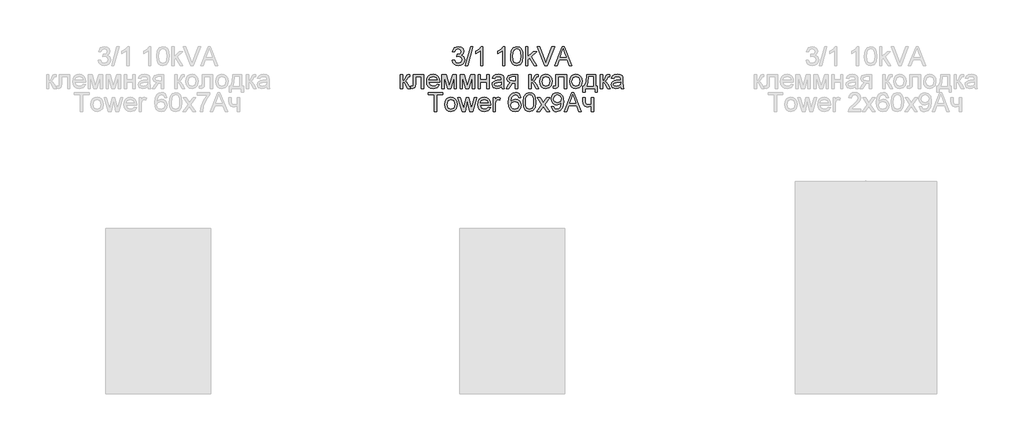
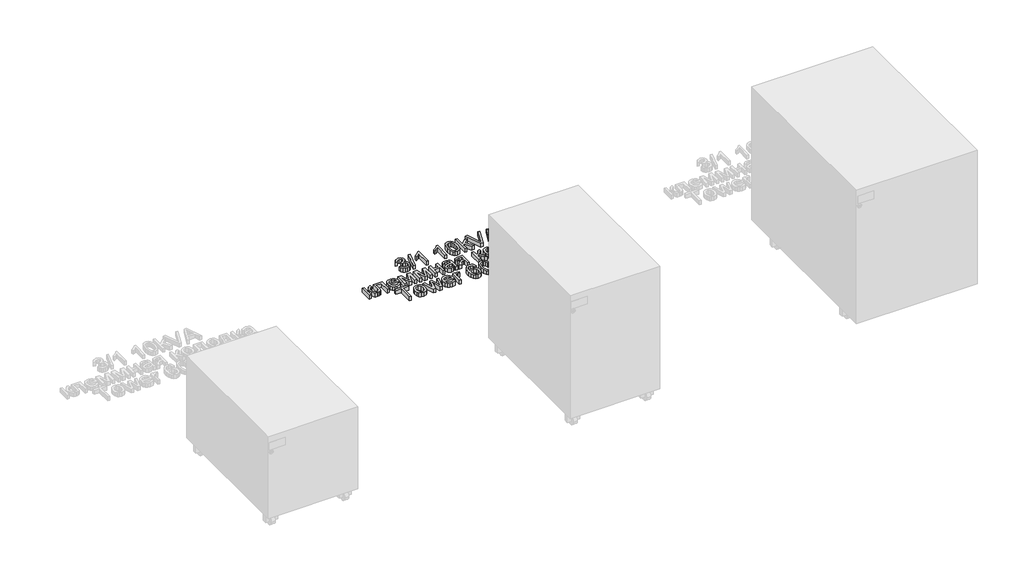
# One storey, part 35 of 74: 1 proxy.
"""IFC4 building model written with IfcOpenShell, lengths in millimetres."""

import ifcopenshell
import ifcopenshell.guid

model = None  # the IFC model being written
_history = None  # IfcOwnerHistory: only IFC2X3 demands one
_inside = {}  # id of a spatial element -> (the spatial element, [elements in it])
_under = {}  # id of a project, library or spatial element -> (it, [spatial elements below it])
_declared = {}  # id of a project -> (the project, [libraries it declares])
_typed = {}  # id of a type object -> (the type object, [elements of that type])
_made_of = {}  # id of a material, layer set ... -> (it, [elements and type objects made of it])


def new_model(schema):
    """Start an empty IFC model of exactly this schema.

    Asked for "IFC4X3", IfcOpenShell would pick the latest addendum, in which some entities
    have other attributes; the version numbers below select the first issue.
    IFC2X3 requires an IfcOwnerHistory on every rooted entity: one is made here for all.
    """
    global model, _history
    if schema == "IFC4X3":
        model = ifcopenshell.file(schema_version=(4, 3, 0, 0))
    else:
        model = ifcopenshell.file(schema=schema)
    _inside.clear()
    _under.clear()
    _declared.clear()
    _typed.clear()
    _made_of.clear()
    _history = None
    if model.schema == "IFC2X3":
        org = make("IfcOrganization", Name="unknown")
        user = make(
            "IfcPersonAndOrganization",
            ThePerson=make("IfcPerson", FamilyName="unknown"),
            TheOrganization=org,
        )
        app = make(
            "IfcApplication",
            ApplicationDeveloper=org,
            Version="unknown",
            ApplicationFullName="unknown",
            ApplicationIdentifier="unknown",
        )
        _history = make(
            "IfcOwnerHistory",
            OwningUser=user,
            OwningApplication=app,
            ChangeAction="ADDED",
            CreationDate=0,
        )
    return model


def make(cls, **values):
    """One entity of the class cls with the attributes given. An attribute that is None is left unset."""
    return model.create_entity(
        cls, **{name: value for name, value in values.items() if value is not None}
    )


def rooted(cls, **values):
    """An entity with a GlobalId (a new one), such as an element, a storey or a relation."""
    return make(cls, GlobalId=ifcopenshell.guid.new(), OwnerHistory=_history, **values)


def si_unit(unit_type, name, prefix=None):
    """IfcSIUnit, for example si_unit("LENGTHUNIT", "METRE", prefix="MILLI")."""
    return make("IfcSIUnit", UnitType=unit_type, Prefix=prefix, Name=name)


def assignment(units):
    """IfcUnitAssignment: the units of a project."""
    return None if units is None else make("IfcUnitAssignment", Units=units)


def point(xyz):
    """IfcCartesianPoint."""
    return None if xyz is None else make("IfcCartesianPoint", Coordinates=xyz)


def direction(xyz):
    """IfcDirection."""
    return None if xyz is None else make("IfcDirection", DirectionRatios=xyz)


def frame(location, z_axis=None, x_axis=None):
    """IfcAxis2Placement3D, a coordinate frame: its origin and axes. An axis left out is left unset."""
    return make(
        "IfcAxis2Placement3D",
        Location=point(location),
        Axis=direction(z_axis),
        RefDirection=direction(x_axis),
    )


def origin():
    """The frame at (0, 0, 0) with its axes left unset."""
    return frame((0.0, 0.0, 0.0))


def origin_with_axes():
    """The frame at (0, 0, 0) with the z axis (0, 0, 1) and the x axis (1, 0, 0) written out."""
    return frame((0.0, 0.0, 0.0), z_axis=(0.0, 0.0, 1.0), x_axis=(1.0, 0.0, 0.0))


def place(relative_to, where):
    """IfcLocalPlacement: puts the frame where relative to a parent placement (None: the world)."""
    return make(
        "IfcLocalPlacement", PlacementRelTo=relative_to, RelativePlacement=where
    )


def context(
    kind, dimensions, precision=None, world=None, true_north=None, identifier=None
):
    """IfcGeometricRepresentationContext, for example the 3D "Model" context."""
    return make(
        "IfcGeometricRepresentationContext",
        ContextIdentifier=identifier,
        ContextType=kind,
        CoordinateSpaceDimension=dimensions,
        Precision=precision,
        WorldCoordinateSystem=world,
        TrueNorth=true_north,
    )


def project(units=None, contexts=None):
    """IfcProject with its units and contexts."""
    return rooted(
        "IfcProject",
        Name="project",
        RepresentationContexts=contexts,
        UnitsInContext=assignment(units),
    )


def spatial(cls, under=None, at=None, **own):
    """A site, building, storey or space (cls), placed at a placement, below another one or the project."""
    s = rooted(cls, ObjectPlacement=at, **own)
    if under is not None:
        _under.setdefault(under.id(), (under, []))[1].append(s)
    return s


def polyline(points):
    """IfcPolyline through the points."""
    return make("IfcPolyline", Points=[point(p) for p in points])


def outline(outer, holes=None, kind="AREA"):
    """IfcArbitraryClosedProfileDef: a profile drawn as a closed curve; with holes, ...WithVoids."""
    if holes is None:
        return make("IfcArbitraryClosedProfileDef", ProfileType=kind, OuterCurve=outer)
    return make(
        "IfcArbitraryProfileDefWithVoids",
        ProfileType=kind,
        OuterCurve=outer,
        InnerCurves=holes,
    )


def extrude(swept, where, along, depth):
    """IfcExtrudedAreaSolid: the profile swept, set in the frame where, extruded along a direction by depth."""
    return make(
        "IfcExtrudedAreaSolid",
        SweptArea=swept,
        Position=where,
        ExtrudedDirection=direction(along),
        Depth=depth,
    )


def shape(context_of_items, identifier, shape_type, items):
    """IfcShapeRepresentation: the items that make up one representation, for example the "Body"."""
    return make(
        "IfcShapeRepresentation",
        ContextOfItems=context_of_items,
        RepresentationIdentifier=identifier,
        RepresentationType=shape_type,
        Items=items,
    )


def made_of(thing, what):
    """Note that an element or type object is made of a material, layer set ...; save() writes the relation."""
    if what is not None:
        _made_of.setdefault(what.id(), (what, []))[1].append(thing)
    return thing


def element(
    cls,
    number,
    at=None,
    inside=None,
    cuts=None,
    type_object=None,
    material=None,
    context=None,
    identifier="Body",
    shape_type=None,
    held_by="IfcProductDefinitionShape",
    body=None,
    shapes=None,
    **own,
):
    """One element of the class cls, such as IfcWall. Its Tag is "e" and its number.

    at: its placement. inside: the storey or other place that contains it. cuts: it is an
    opening in that element (IfcRelVoidsElement). A single representation is given by context,
    identifier, shape_type and body (its items); several are given by shapes. held_by: the class
    of the entity that holds the representations. save() writes the other relations.
    """
    e = rooted(cls, Tag="e%d" % number, ObjectPlacement=at, **own)
    if body is not None:
        shapes = [shape(context, identifier, shape_type, body)]
    if shapes is not None:
        e.Representation = make(held_by, Representations=shapes)
    if inside is not None:
        _inside.setdefault(inside.id(), (inside, []))[1].append(e)
    if cuts is not None:
        rooted(
            "IfcRelVoidsElement", RelatingBuildingElement=cuts, RelatedOpeningElement=e
        )
    if type_object is not None:
        _typed.setdefault(type_object.id(), (type_object, []))[1].append(e)
    return made_of(e, material)


def aggregate(whole, parts):
    """IfcRelAggregates: a whole, such as a stair, and the parts it consists of."""
    return rooted("IfcRelAggregates", RelatingObject=whole, RelatedObjects=parts)


def save(model, path):
    """Write the relations noted so far, then the file.

    IfcRelAggregates (storeys below a building ...), IfcRelContainedInSpatialStructure (elements
    in a storey), IfcRelDefinesByType, IfcRelAssociatesMaterial and IfcRelDeclares: one each for
    every whole, place, type object, material and project.
    """
    for whole, parts in _under.values():
        aggregate(whole, parts)
    for where, things in _inside.values():
        rooted(
            "IfcRelContainedInSpatialStructure",
            RelatedElements=things,
            RelatingStructure=where,
        )
    for kind, things in _typed.values():
        rooted("IfcRelDefinesByType", RelatedObjects=things, RelatingType=kind)
    for what, things in _made_of.values():
        rooted("IfcRelAssociatesMaterial", RelatedObjects=things, RelatingMaterial=what)
    for by, libraries in _declared.values():
        rooted("IfcRelDeclares", RelatingContext=by, RelatedDefinitions=libraries)
    model.write(path)


model = new_model("IFC4")

# Units and contexts
model_context = context("Model", 3, world=origin())
ifc_project = project(units=[si_unit("LENGTHUNIT", "METRE", prefix="MILLI")], contexts=[model_context])

# Site, building, storey
site = spatial("IfcSite", under=ifc_project)
building = spatial("IfcBuilding", under=site)
storey = spatial("IfcBuildingStorey", under=building, Name="Этаж 01", Elevation=0.0)

# Proxy
placement = place(None, origin())
element("IfcBuildingElementProxy", 1, Name="80 мм Arial", ObjectType="80 мм Arial", at=placement, inside=storey, context=model_context, shape_type="SweptSolid", body=[
    extrude(outline(polyline([(4098.3137414, -15105.2863601), (4108.3593724, -15104.0306562), (4113.9021278, -15114.6060373), (4124.2714949, -15117.8433988), (4136.475367, -15113.3895741), (4141.0076732, -15102.3629245), (4136.5146077, -15091.9739369), (4125.0955506, -15087.8634688), (4118.0518367, -15088.9622097), (4119.1701979, -15078.9165786), (4120.7790685, -15079.0343009), (4132.1785053, -15076.150106), (4137.2405615, -15067.2816974), (4133.5715518, -15059.423738), (4124.114532, -15056.3139089), (4114.5397899, -15059.4531685), (4109.6150762, -15068.8709476), (4099.5694452, -15067.6152437), (4107.7903816, -15051.8600842), (4123.7613652, -15046.2682778), (4135.8769456, -15049.0249403), (4144.3529468, -15056.5591635), (4147.2861926, -15066.6930862), (4144.5000996, -15075.9539023), (4136.2595429, -15082.6052088), (4147.2077111, -15089.4723394), (4151.0533042, -15102.5395078), (4149.1305076, -15112.330074), (4143.3621179, -15120.5117696), (4134.6555774, -15126.0447148), (4123.9183282, -15127.8890298), (4114.2062435, -15126.3144949), (4106.2992332, -15121.5908901), (4100.8006236, -15114.3656877), (4098.3137414, -15105.2863601)])), origin_with_axes(), (0.0, 0.0, 1.0), 20.0),
    extrude(outline(polyline([(4154.8204158, -15126.633326), (4177.4230856, -15046.2682778), (4186.487698, -15046.2682778), (4163.8850282, -15126.633326), (4154.8204158, -15126.633326)])), origin_with_axes(), (0.0, 0.0, 1.0), 20.0),
    extrude(outline(polyline([(4228.9069446, -15126.633326), (4218.8613135, -15126.633326), (4218.8613135, -15064.0050951), (4209.3454326, -15070.783934), (4198.7700515, -15075.8558004), (4198.7700515, -15066.3595399), (4213.4951415, -15056.9613812), (4222.4322214, -15046.2682778), (4228.9069446, -15046.2682778), (4228.9069446, -15126.633326)])), origin_with_axes(), (0.0, 0.0, 1.0), 20.0),
    extrude(outline(polyline([(4321.8290314, -15126.633326), (4311.7834004, -15126.633326), (4311.7834004, -15064.0050951), (4302.2675195, -15070.783934), (4291.6921384, -15075.8558004), (4291.6921384, -15066.3595399), (4306.4172284, -15056.9613812), (4315.3543083, -15046.2682778), (4321.8290314, -15046.2682778), (4321.8290314, -15126.633326)])), origin_with_axes(), (0.0, 0.0, 1.0), 20.0),
    extrude(outline(polyline([(4345.6874051, -15087.0982742), (4348.6402712, -15063.9756645), (4357.410578, -15050.643621), (4372.0571865, -15046.2682778), (4383.7901696, -15048.8581671), (4391.8933837, -15056.323719), (4396.6022732, -15068.2136651), (4398.4269679, -15087.0982742), (4395.5035323, -15110.122782), (4386.7626561, -15123.4842561), (4372.0571865, -15127.8890298), (4361.619148, -15125.9760435), (4353.6925173, -15120.2370843), (4347.6886832, -15106.6450709), (4345.6874051, -15087.0982742)]), holes=[polyline([(4355.7330361, -15087.0786538), (4356.9102585, -15102.8804118), (4360.4419257, -15112.0259582), (4372.0571865, -15117.8433988), (4383.6724474, -15112.0063378), (4387.2041145, -15102.8558863), (4388.3813369, -15087.0786538), (4387.2433553, -15071.6325151), (4383.8294104, -15062.4158449), (4378.5809606, -15057.8393929), (4371.9394643, -15056.3139089), (4360.5988886, -15061.6898911), (4356.9494992, -15071.4804572), (4355.7330361, -15087.0786538)])]), origin_with_axes(), (0.0, 0.0, 1.0), 20.0),
    extrude(outline(polyline([(4409.7283028, -15126.633326), (4409.7283028, -15046.2682778), (4419.7739338, -15046.2682778), (4419.7739338, -15089.452719), (4442.2981221, -15067.6152437), (4456.1893463, -15067.6152437), (4433.3904728, -15089.7274042), (4457.4450501, -15126.633326), (4445.712067, -15126.633326), (4426.1897958, -15096.712257), (4419.7739338, -15102.9319153), (4419.7739338, -15126.633326), (4409.7283028, -15126.633326)])), origin_with_axes(), (0.0, 0.0, 1.0), 20.0),
    extrude(outline(polyline([(4532.2182919, -15126.633326), (4564.2976019, -15046.2682778), (4572.8520846, -15046.2682778), (4604.9313946, -15126.633326), (4594.3167727, -15126.633326), (4585.1148177, -15101.5192484), (4552.0152484, -15101.5192484), (4542.8329138, -15126.633326), (4532.2182919, -15126.633326)]), holes=[polyline([(4555.7038785, -15091.4736174), (4581.445808, -15091.4736174), (4574.2058903, -15071.7159017), (4568.5748432, -15056.3139089), (4563.5716481, -15069.9893089), (4555.7038785, -15091.4736174)])]), origin_with_axes(), (0.0, 0.0, 1.0), 20.0),
    extrude(outline(polyline([(4491.2313326, -15126.633326), (4459.2501245, -15046.2682778), (4470.0020889, -15046.2682778), (4491.4079159, -15104.1679988), (4495.7440184, -15117.2155469), (4500.0212597, -15104.1679988), (4521.4859479, -15046.2682778), (4532.2379123, -15046.2682778), (4501.6105099, -15126.633326), (4491.2313326, -15126.633326)])), origin_with_axes(), (0.0, 0.0, 1.0), 20.0),
    extrude(outline(polyline([(3933.1886815, -15165.195098), (3978.3940211, -15165.195098), (3978.3940211, -15224.1543191), (3968.3483901, -15224.1543191), (3968.3483901, -15175.240729), (3943.2343126, -15175.240729), (3943.2343126, -15203.3959644), (3942.5574097, -15216.3846514), (3938.839349, -15221.8685457), (3930.0494219, -15224.2131802), (3921.8873467, -15223.7030505), (3921.8873467, -15214.1675492), (3926.3804121, -15214.1675492), (3930.9225285, -15213.5495075), (3932.737413, -15211.5874702), (3933.1886815, -15202.8269736), (3933.1886815, -15165.195098)])), origin_with_axes(), (0.0, 0.0, 1.0), 20.0),
    extrude(outline(polyline([(3879.1934148, -15165.195098), (3889.2390459, -15165.195098), (3889.2390459, -15190.3091756), (3895.9688338, -15188.5041012), (3901.4821587, -15177.9875813), (3906.0635158, -15168.9131587), (3910.1053126, -15165.9602926), (3917.4531423, -15165.195098), (3919.3759389, -15165.195098), (3919.3759389, -15175.2995902), (3916.6683274, -15175.240729), (3911.7632341, -15176.3002292), (3908.3100485, -15182.9122949), (3904.2584414, -15190.0639209), (3898.5783434, -15193.5661575), (3904.9157239, -15197.4755168), (3911.1353822, -15205.7111684), (3921.8873467, -15224.2131802), (3910.4682895, -15224.2131802), (3899.9321492, -15206.1035759), (3894.6346485, -15198.4418202), (3889.2390459, -15196.5876949), (3889.2390459, -15224.2131802), (3879.1934148, -15224.2131802), (3879.1934148, -15165.195098)])), origin_with_axes(), (0.0, 0.0, 1.0), 20.0),
    extrude(outline(polyline([(4034.7829733, -15206.633326), (4044.6324006, -15207.8890298), (4035.4206355, -15220.8580964), (4018.2626192, -15225.4688841), (4006.4756801, -15223.4798688), (3997.4061626, -15217.5128228), (3991.6230577, -15207.9552486), (3989.695356, -15195.1946485), (3991.642678, -15182.0048527), (3997.4846441, -15172.1407101), (4006.4315342, -15165.9897231), (4017.6936284, -15163.9393941), (4028.6050084, -15165.984818), (4037.3238116, -15172.1210897), (4043.0406979, -15181.9656119), (4044.9463266, -15195.1357873), (4044.8874655, -15197.8433988), (3999.740987, -15197.8433988), (4005.5191869, -15210.8909469), (4018.4588229, -15215.4232531), (4028.3082502, -15213.3238732), (4034.7829733, -15206.633326)]), holes=[polyline([(3999.740987, -15187.7977678), (4034.9006956, -15187.7977678), (4030.8785191, -15178.6939147), (4017.6543876, -15173.9850252), (4005.2837424, -15177.7423266), (3999.740987, -15187.7977678)])]), origin_with_axes(), (0.0, 0.0, 1.0), 20.0),
    extrude(outline(polyline([(4054.9919576, -15165.195098), (4072.2775063, -15165.195098), (4085.5997396, -15212.4409564), (4099.9618527, -15165.195098), (4116.5214476, -15165.195098), (4116.5214476, -15224.2131802), (4106.4758166, -15224.2131802), (4106.4758166, -15176.6926366), (4092.035222, -15224.2131802), (4078.8503313, -15224.2131802), (4065.0375886, -15174.4166734), (4065.0375886, -15224.2131802), (4054.9919576, -15224.2131802), (4054.9919576, -15165.195098)])), origin_with_axes(), (0.0, 0.0, 1.0), 20.0),
    extrude(outline(polyline([(4131.5898941, -15165.195098), (4148.8754428, -15165.195098), (4162.1976761, -15212.4409564), (4176.5597892, -15165.195098), (4193.1193841, -15165.195098), (4193.1193841, -15224.2131802), (4183.073753, -15224.2131802), (4183.073753, -15176.6926366), (4168.6331585, -15224.2131802), (4155.4482678, -15224.2131802), (4141.6355251, -15174.4166734), (4141.6355251, -15224.2131802), (4131.5898941, -15224.2131802), (4131.5898941, -15165.195098)])), origin_with_axes(), (0.0, 0.0, 1.0), 20.0),
    extrude(outline(polyline([(4208.1878306, -15165.195098), (4218.2334616, -15165.195098), (4218.2334616, -15187.7977678), (4244.603243, -15187.7977678), (4244.603243, -15165.195098), (4254.648874, -15165.195098), (4254.648874, -15224.2131802), (4244.603243, -15224.2131802), (4244.603243, -15197.8433988), (4218.2334616, -15197.8433988), (4218.2334616, -15224.2131802), (4208.1878306, -15224.2131802), (4208.1878306, -15165.195098)])), origin_with_axes(), (0.0, 0.0, 1.0), 20.0),
    extrude(outline(polyline([(4307.3884369, -15216.678957), (4297.6469216, -15223.4872264), (4286.885147, -15225.4688841), (4272.2973996, -15220.7011335), (4267.2059128, -15208.5168818), (4269.1287094, -15200.5706307), (4274.1809554, -15194.802241), (4281.2148592, -15191.5060183), (4289.9066844, -15189.9952496), (4307.3295757, -15186.5420639), (4307.3884369, -15184.3053414), (4304.6219643, -15176.8888404), (4293.5168331, -15173.9850252), (4283.3534798, -15175.9176319), (4278.5072477, -15182.7749523), (4268.4616167, -15181.5192484), (4272.8075293, -15171.7090619), (4281.5582157, -15165.9602926), (4294.8117777, -15163.9393941), (4306.9862192, -15165.7248481), (4313.86316, -15170.2081033), (4316.9435585, -15177.026183), (4317.4340679, -15185.8161101), (4317.4340679, -15198.3142878), (4317.9441976, -15215.7666096), (4319.9454756, -15224.2131802), (4309.8998446, -15224.2131802), (4307.3884369, -15216.678957)]), holes=[polyline([(4307.3884369, -15196.5876949), (4291.1820087, -15199.6680935), (4282.5392344, -15201.2965845), (4278.6249699, -15203.9453348), (4277.2515438, -15207.8105483), (4280.2436507, -15213.2453917), (4289.0237677, -15215.4232531), (4299.1871209, -15213.0197574), (4305.7403255, -15207.2023168), (4307.3295757, -15199.432649), (4307.3884369, -15196.5876949)])]), origin_with_axes(), (0.0, 0.0, 1.0), 20.0),
    extrude(outline(polyline([(4376.4521501, -15165.195098), (4376.4521501, -15224.2131802), (4366.4065191, -15224.2131802), (4366.4065191, -15201.6105105), (4360.932435, -15201.6105105), (4353.4766932, -15202.8858347), (4346.47222, -15211.4599377), (4338.4671078, -15224.2131802), (4326.8518469, -15224.2131802), (4336.9367187, -15208.0852336), (4345.4912014, -15199.7269546), (4333.797459, -15193.6250186), (4329.9911066, -15182.2452022), (4335.1905055, -15169.9236079), (4350.2393317, -15165.195098), (4376.4521501, -15165.195098)]), holes=[polyline([(4366.4065191, -15175.240729), (4353.1627672, -15175.240729), (4342.4402334, -15177.5657432), (4340.0367377, -15183.0103968), (4343.578215, -15189.4949301), (4356.1254436, -15191.5648794), (4366.4065191, -15191.5648794), (4366.4065191, -15175.240729)])]), origin_with_axes(), (0.0, 0.0, 1.0), 20.0),
    extrude(outline(polyline([(4422.9131935, -15165.195098), (4432.9588245, -15165.195098), (4432.9588245, -15190.3091756), (4439.6886125, -15188.5041012), (4445.2019373, -15177.9875813), (4449.7832945, -15168.9131587), (4453.8250913, -15165.9602926), (4461.172921, -15165.195098), (4463.0957176, -15165.195098), (4463.0957176, -15175.2995902), (4460.3881061, -15175.240729), (4455.4830128, -15176.3002292), (4452.0298272, -15182.9122949), (4447.9782201, -15190.0639209), (4442.2981221, -15193.5661575), (4448.6355026, -15197.4755168), (4454.8551609, -15205.7111684), (4465.6071253, -15224.2131802), (4454.1880682, -15224.2131802), (4443.6519279, -15206.1035759), (4438.3544271, -15198.4418202), (4432.9588245, -15196.5876949), (4432.9588245, -15224.2131802), (4422.9131935, -15224.2131802), (4422.9131935, -15165.195098)])), origin_with_axes(), (0.0, 0.0, 1.0), 20.0),
    extrude(outline(polyline([(4469.374237, -15194.7041391), (4471.5471933, -15180.4744636), (4478.0660622, -15170.4729784), (4486.1202254, -15165.5727902), (4495.7636388, -15163.9393941), (4506.3169469, -15165.9284095), (4514.7463497, -15171.8954554), (4520.2719373, -15181.3696431), (4522.1137998, -15193.8800835), (4518.8568179, -15211.7542433), (4509.3703675, -15221.8685457), (4495.7636388, -15225.4688841), (4485.0827982, -15223.4872264), (4476.6632056, -15217.5422534), (4471.1964791, -15207.8694095), (4469.374237, -15194.7041391)]), holes=[polyline([(4479.419868, -15194.6845188), (4484.0698964, -15210.2532848), (4495.7636388, -15215.4232531), (4507.4181404, -15210.2238542), (4512.0681688, -15194.3705928), (4507.3887098, -15179.1549935), (4495.7636388, -15173.9850252), (4484.0698964, -15179.1353731), (4479.419868, -15194.6845188)])]), origin_with_axes(), (0.0, 0.0, 1.0), 20.0),
    extrude(outline(polyline([(4538.4379502, -15165.195098), (4583.6432898, -15165.195098), (4583.6432898, -15224.1543191), (4573.5976588, -15224.1543191), (4573.5976588, -15175.240729), (4548.4835812, -15175.240729), (4548.4835812, -15203.3959644), (4547.8066783, -15216.3846514), (4544.0886176, -15221.8685457), (4535.2986905, -15224.2131802), (4527.1366153, -15223.7030505), (4527.1366153, -15214.1675492), (4531.6296807, -15214.1675492), (4536.1717971, -15213.5495075), (4537.9866816, -15211.5874702), (4538.4379502, -15202.8269736), (4538.4379502, -15165.195098)])), origin_with_axes(), (0.0, 0.0, 1.0), 20.0),
    extrude(outline(polyline([(4596.2003285, -15194.7041391), (4598.3732849, -15180.4744636), (4604.8921538, -15170.4729784), (4612.946317, -15165.5727902), (4622.5897303, -15163.9393941), (4633.1430385, -15165.9284095), (4641.5724413, -15171.8954554), (4647.0980288, -15181.3696431), (4648.9398914, -15193.8800835), (4645.6829094, -15211.7542433), (4636.1964591, -15221.8685457), (4622.5897303, -15225.4688841), (4611.9088897, -15223.4872264), (4603.4892971, -15217.5422534), (4598.0225707, -15207.8694095), (4596.2003285, -15194.7041391)]), holes=[polyline([(4606.2459596, -15194.6845188), (4610.895988, -15210.2532848), (4622.5897303, -15215.4232531), (4634.2442319, -15210.2238542), (4638.8942603, -15194.3705928), (4634.2148014, -15179.1549935), (4622.5897303, -15173.9850252), (4610.895988, -15179.1353731), (4606.2459596, -15194.6845188)])]), origin_with_axes(), (0.0, 0.0, 1.0), 20.0),
    extrude(outline(polyline([(4669.0311534, -15165.195098), (4706.7022697, -15165.195098), (4706.7022697, -15214.1675492), (4714.236493, -15214.1675492), (4714.236493, -15240.5373306), (4704.1908619, -15240.5373306), (4704.1908619, -15224.2131802), (4662.752634, -15224.2131802), (4662.752634, -15240.5373306), (4652.707003, -15240.5373306), (4652.707003, -15214.1675492), (4658.9855224, -15214.1675492), (4666.7453799, -15195.0082549), (4669.0311534, -15165.195098)]), holes=[polyline([(4677.8210805, -15175.240729), (4675.4666358, -15198.1278942), (4670.2868573, -15214.1675492), (4696.6566387, -15214.1675492), (4696.6566387, -15175.240729), (4677.8210805, -15175.240729)])]), origin_with_axes(), (0.0, 0.0, 1.0), 20.0),
    extrude(outline(polyline([(4725.5378279, -15165.195098), (4735.5834589, -15165.195098), (4735.5834589, -15190.3091756), (4742.3132468, -15188.5041012), (4747.8265717, -15177.9875813), (4752.4079288, -15168.9131587), (4756.4497256, -15165.9602926), (4763.7975554, -15165.195098), (4765.7203519, -15165.195098), (4765.7203519, -15175.2995902), (4763.0127404, -15175.240729), (4758.1076472, -15176.3002292), (4754.6544615, -15182.9122949), (4750.6028545, -15190.0639209), (4744.9227565, -15193.5661575), (4751.260137, -15197.4755168), (4757.4797952, -15205.7111684), (4768.2317597, -15224.2131802), (4756.8127025, -15224.2131802), (4746.2765622, -15206.1035759), (4740.9790615, -15198.4418202), (4735.5834589, -15196.5876949), (4735.5834589, -15224.2131802), (4725.5378279, -15224.2131802), (4725.5378279, -15165.195098)])), origin_with_axes(), (0.0, 0.0, 1.0), 20.0),
    extrude(outline(polyline([(4812.1813954, -15216.678957), (4802.4398801, -15223.4872264), (4791.6781055, -15225.4688841), (4777.0903581, -15220.7011335), (4771.9988713, -15208.5168818), (4773.9216679, -15200.5706307), (4778.9739139, -15194.802241), (4786.0078177, -15191.5060183), (4794.6996429, -15189.9952496), (4812.1225342, -15186.5420639), (4812.1813954, -15184.3053414), (4809.4149228, -15176.8888404), (4798.3097916, -15173.9850252), (4788.1464383, -15175.9176319), (4783.3002062, -15182.7749523), (4773.2545752, -15181.5192484), (4777.6004878, -15171.7090619), (4786.3511742, -15165.9602926), (4799.6047362, -15163.9393941), (4811.7791777, -15165.7248481), (4818.6561185, -15170.2081033), (4821.736517, -15177.026183), (4822.2270264, -15185.8161101), (4822.2270264, -15198.3142878), (4822.7371561, -15215.7666096), (4824.7384341, -15224.2131802), (4814.6928031, -15224.2131802), (4812.1813954, -15216.678957)]), holes=[polyline([(4812.1813954, -15196.5876949), (4795.9749672, -15199.6680935), (4787.3321929, -15201.2965845), (4783.4179284, -15203.9453348), (4782.0445023, -15207.8105483), (4785.0366092, -15213.2453917), (4793.8167262, -15215.4232531), (4803.9800794, -15213.0197574), (4810.533284, -15207.2023168), (4812.1225342, -15199.432649), (4812.1813954, -15196.5876949)])]), origin_with_axes(), (0.0, 0.0, 1.0), 20.0),
    extrude(outline(polyline([(4022.9715087, -15321.7930345), (4022.9715087, -15251.4736174), (3996.6017273, -15251.4736174), (3996.6017273, -15241.4279864), (4059.3869212, -15241.4279864), (4059.3869212, -15251.4736174), (4033.0171398, -15251.4736174), (4033.0171398, -15321.7930345), (4022.9715087, -15321.7930345)])), origin_with_axes(), (0.0, 0.0, 1.0), 20.0),
    extrude(outline(polyline([(4066.9211444, -15292.2839934), (4069.0941008, -15278.0543178), (4075.6129697, -15268.0528327), (4083.6671329, -15263.1526445), (4093.3105462, -15261.5192484), (4103.8638544, -15263.5082637), (4112.2932572, -15269.4753097), (4117.8188447, -15278.9494974), (4119.6607073, -15291.4599377), (4116.4037253, -15309.3340976), (4106.917275, -15319.4483999), (4093.3105462, -15323.0487384), (4082.6297056, -15321.0670807), (4074.210113, -15315.1221077), (4068.7433866, -15305.4492637), (4066.9211444, -15292.2839934)]), holes=[polyline([(4076.9667754, -15292.264373), (4081.6168039, -15307.8331391), (4093.3105462, -15313.0031074), (4104.9650478, -15307.8037085), (4109.6150762, -15291.9504471), (4104.9356173, -15276.7348477), (4093.3105462, -15271.5648794), (4081.6168039, -15276.7152274), (4076.9667754, -15292.264373)])]), origin_with_axes(), (0.0, 0.0, 1.0), 20.0),
    extrude(outline(polyline([(4140.7526083, -15321.7930345), (4122.799967, -15262.7749523), (4133.2380054, -15262.7749523), (4143.4209791, -15297.208707), (4146.4621369, -15309.510681), (4148.9539243, -15297.6599756), (4157.0571383, -15262.7749523), (4169.0255659, -15262.7749523), (4177.0895393, -15297.5618738), (4179.3066414, -15308.2942178), (4182.4851419, -15296.9732626), (4192.6877359, -15262.7749523), (4203.1650151, -15262.7749523), (4185.0750311, -15321.7930345), (4172.9300202, -15321.7930345), (4165.2192135, -15287.1826964), (4162.982491, -15276.3914912), (4153.0349619, -15321.7930345), (4140.7526083, -15321.7930345)])), origin_with_axes(), (0.0, 0.0, 1.0), 20.0),
    extrude(outline(polyline([(4251.3918921, -15304.2131802), (4261.2413194, -15305.4688841), (4252.0295542, -15318.4379507), (4234.871538, -15323.0487384), (4223.0845988, -15321.0597231), (4214.0150814, -15315.0926771), (4208.2319764, -15305.5351029), (4206.3042748, -15292.7745027), (4208.2515968, -15279.5847069), (4214.0935629, -15269.7205644), (4223.040453, -15263.5695774), (4234.3025471, -15261.5192484), (4245.2139271, -15263.5646723), (4253.9327304, -15269.700944), (4259.6496166, -15279.5454662), (4261.5552453, -15292.7156416), (4261.4963842, -15295.4232531), (4216.3499058, -15295.4232531), (4222.1281057, -15308.4708012), (4235.0677417, -15313.0031074), (4244.917169, -15310.9037275), (4251.3918921, -15304.2131802)]), holes=[polyline([(4216.3499058, -15285.3776221), (4251.5096143, -15285.3776221), (4247.4874379, -15276.273769), (4234.2633064, -15271.5648794), (4221.8926612, -15275.3221809), (4216.3499058, -15285.3776221)])]), origin_with_axes(), (0.0, 0.0, 1.0), 20.0),
    extrude(outline(polyline([(4271.6008764, -15321.7930345), (4271.6008764, -15262.7749523), (4280.3908035, -15262.7749523), (4280.3908035, -15271.5060183), (4286.6300821, -15263.4616654), (4292.9086015, -15261.5192484), (4302.9934733, -15264.6192674), (4299.6383895, -15273.6250186), (4292.5750552, -15271.5648794), (4286.8949572, -15273.5465371), (4283.2749983, -15279.0402416), (4281.6465074, -15290.7732247), (4281.6465074, -15321.7930345), (4271.6008764, -15321.7930345)])), origin_with_axes(), (0.0, 0.0, 1.0), 20.0),
    extrude(outline(polyline([(4389.6370408, -15262.7749523), (4379.5914098, -15264.0306562), (4375.7850574, -15255.6527569), (4365.719806, -15251.4736174), (4356.6551936, -15253.9065437), (4349.7978733, -15263.0398273), (4346.943109, -15280.9434178), (4355.8017074, -15272.9284954), (4366.7793062, -15270.3091756), (4376.0597426, -15272.0995346), (4383.8490307, -15277.4706117), (4389.1318162, -15285.6768328), (4390.8927447, -15295.9726235), (4387.5769016, -15309.8344171), (4378.4534281, -15319.6446037), (4365.2881578, -15323.0487384), (4353.8911736, -15320.7923955), (4344.8142985, -15314.0233668), (4338.8766831, -15302.0745596), (4336.897478, -15284.2788812), (4339.0949597, -15264.2710057), (4345.6874051, -15250.5907006), (4354.6882512, -15243.7186649), (4366.3476579, -15241.4279864), (4375.1621106, -15242.8455583), (4382.2205398, -15247.0982742), (4389.6370408, -15262.7749523)]), holes=[polyline([(4346.943109, -15295.8156606), (4349.2681232, -15304.517296), (4355.4485407, -15310.8350561), (4364.5033429, -15313.0031074), (4376.344238, -15308.5100419), (4380.8471137, -15296.3061699), (4376.4030992, -15284.6222377), (4364.091315, -15280.3548066), (4351.9364939, -15284.6222377), (4346.943109, -15295.8156606)])]), origin_with_axes(), (0.0, 0.0, 1.0), 20.0),
    extrude(outline(polyline([(4399.6826718, -15282.2579828), (4402.635538, -15259.1353731), (4411.4058447, -15245.8033296), (4426.0524532, -15241.4279864), (4437.7854363, -15244.0178756), (4445.8886504, -15251.4834276), (4450.5975399, -15263.3733737), (4452.4222346, -15282.2579828), (4449.498799, -15305.2824906), (4440.7579228, -15318.6439646), (4426.0524532, -15323.0487384), (4415.6144147, -15321.135752), (4407.687784, -15315.3967929), (4401.6839499, -15301.8047794), (4399.6826718, -15282.2579828)]), holes=[polyline([(4409.7283028, -15282.2383624), (4410.9055252, -15298.0401204), (4414.4371924, -15307.1856668), (4426.0524532, -15313.0031074), (4437.6677141, -15307.1660464), (4441.1993812, -15298.0155949), (4442.3766036, -15282.2383624), (4441.238622, -15266.7922237), (4437.8246771, -15257.5755534), (4432.5762273, -15252.9991014), (4425.934731, -15251.4736174), (4414.5941553, -15256.8495996), (4410.944766, -15266.6401658), (4409.7283028, -15282.2383624)])]), origin_with_axes(), (0.0, 0.0, 1.0), 20.0),
    extrude(outline(polyline([(4457.4450501, -15321.7930345), (4478.9097383, -15292.1270304), (4458.700754, -15262.7749523), (4470.7869038, -15262.7749523), (4480.5382293, -15276.9016209), (4485.0901558, -15283.5725478), (4489.0338508, -15278.118084), (4500.138982, -15262.7749523), (4512.2251318, -15262.7749523), (4490.9958881, -15292.1270304), (4511.4403168, -15321.7930345), (4499.354167, -15321.7930345), (4487.0521931, -15303.9581154), (4484.7958502, -15300.7011335), (4469.5312, -15321.7930345), (4457.4450501, -15321.7930345)])), origin_with_axes(), (0.0, 0.0, 1.0), 20.0),
    extrude(outline(polyline([(4518.9745401, -15301.7017725), (4529.0201711, -15300.4460686), (4533.5328569, -15310.0306209), (4542.0873396, -15313.0031074), (4550.2199842, -15311.090121), (4555.7333091, -15305.9790138), (4559.0197216, -15297.2479478), (4560.4716292, -15285.5934462), (4560.412768, -15283.6314089), (4552.3782253, -15291.2441136), (4541.3613858, -15294.1675492), (4532.2011241, -15292.3820953), (4524.5761566, -15287.0257334), (4519.4331663, -15278.7508411), (4517.7188362, -15268.2097956), (4519.5165529, -15257.3204886), (4524.909703, -15248.7856263), (4533.0104645, -15243.2673964), (4542.9310156, -15241.4279864), (4557.2440778, -15245.6267462), (4567.0935051, -15257.5951738), (4570.4583991, -15280.0801214), (4567.1033153, -15304.4780553), (4557.1263556, -15318.3006081), (4541.6164506, -15323.0487384), (4533.0276323, -15321.6483343), (4526.175217, -15317.4471219), (4518.9745401, -15301.7017725)]), holes=[polyline([(4560.412768, -15267.9743512), (4556.0766656, -15255.9274421), (4544.5595066, -15251.4736174), (4532.4733568, -15256.2707986), (4527.7644672, -15268.700305), (4532.2182919, -15279.8348667), (4544.2848214, -15284.1219182), (4555.8706517, -15279.8348667), (4560.412768, -15267.9743512)])]), origin_with_axes(), (0.0, 0.0, 1.0), 20.0),
    extrude(outline(polyline([(4573.6565199, -15321.7930345), (4605.7358299, -15241.4279864), (4614.2903125, -15241.4279864), (4646.3696225, -15321.7930345), (4635.7550007, -15321.7930345), (4626.5530457, -15296.678957), (4593.4534763, -15296.678957), (4584.2711417, -15321.7930345), (4573.6565199, -15321.7930345)]), holes=[polyline([(4597.1421064, -15286.633326), (4622.8840359, -15286.633326), (4615.6441183, -15266.8756103), (4610.0130712, -15251.4736174), (4605.009876, -15265.1490174), (4597.1421064, -15286.633326)])]), origin_with_axes(), (0.0, 0.0, 1.0), 20.0),
    extrude(outline(polyline([(4652.0791511, -15262.7749523), (4662.1247821, -15262.7749523), (4662.1247821, -15274.0959076), (4662.9390276, -15284.7105294), (4666.853292, -15290.4592987), (4674.6229597, -15292.9118453), (4688.4945635, -15289.8706875), (4688.4945635, -15262.7749523), (4698.5401945, -15262.7749523), (4698.5401945, -15321.7930345), (4688.4945635, -15321.7930345), (4688.4945635, -15299.5042907), (4671.9349686, -15302.9574764), (4660.545342, -15299.3571379), (4653.8449846, -15290.5377802), (4652.0791511, -15279.059862), (4652.0791511, -15262.7749523)])), origin_with_axes(), (0.0, 0.0, 1.0), 20.0),
])

save(model, "model.ifc")
